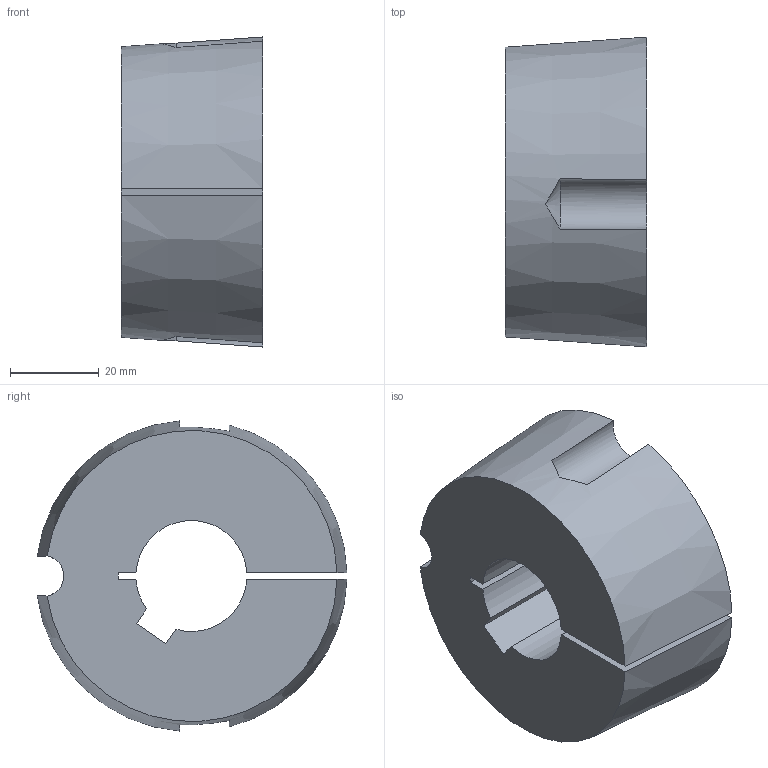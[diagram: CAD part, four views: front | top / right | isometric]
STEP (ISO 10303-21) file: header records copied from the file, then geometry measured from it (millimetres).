
FILE_DESCRIPTION( ( 'STEP AP203' ), '1' );
FILE_NAME( 'D:/export/antriebselemente/spannbuchsen_und_spannsaetze/taper-spannbuchsen_1008_bis_5050/taper-spannbuchsen_62250525Isometric_118.stp', '2018-12-11T11:11:12', ( '' ), ( '' ), ' ', 'PARTsolutions', ' ' );
FILE_SCHEMA( ( 'CONFIG_CONTROL_DESIGN' ) );
Length unit declared in the file: millimetre
Products named in the file (1): _taper-spannbuchsen_62250525
Bounding box: 31.8 x 69.72 x 69.81 mm (x, y, z)
Volume: 93460 mm3; surface area: 17499.5 mm2
Topology: 1 solids, 1 shells, 20 faces, 54 edges, 36 vertices
Faces by surface type: plane 10, cylinder 6, cone 4
Entity records: 752 total; most frequent: CARTESIAN_POINT 203, ORIENTED_EDGE 108, DIRECTION 104, EDGE_CURVE 54, AXIS2_PLACEMENT_3D 39, VERTEX_POINT 36, LINE 26, VECTOR 26
